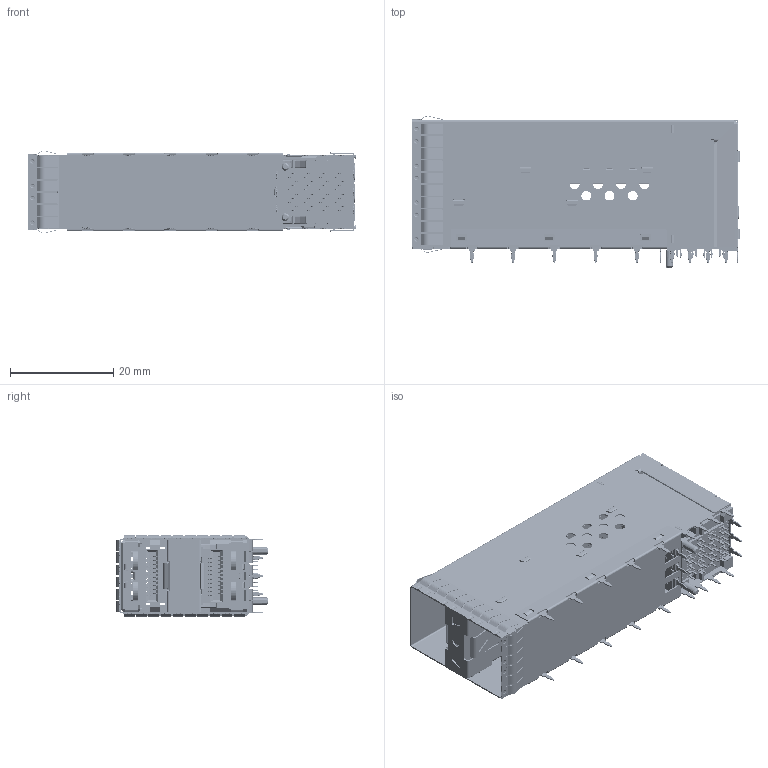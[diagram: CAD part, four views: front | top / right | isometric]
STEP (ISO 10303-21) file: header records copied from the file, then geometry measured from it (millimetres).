
FILE_DESCRIPTION (( 'STEP AP214' ), '1' );
FILE_NAME ('SBA0-0000310400-0000-X.STEP', '2021-07-14T01:15:39', ( '' ), ( '' ), 'SwSTEP 2.0', 'SolidWorks 2012', '' );
FILE_SCHEMA (( 'AUTOMOTIVE_DESIGN' ));
Length unit declared in the file: millimetre
Products named in the file (10): SBA0 Conn+Lightpipe Ass''y-1_w\outer 2Lightpipe; SS20-S150_1x1-Top Spring Ass''y; SSA0-S120_SFP28-Ground pin; SBA0-0000310400-0000-X; SSA0-S110-1_2.25-Legs21-SFP28 hole ass''y; SBA0-M110; SBD0-P130_for 4Lightpipe; SSD0-P150; SBD0-S140_w\UD Outerlightpipe散熱圓孔-ass''y; SS20-S150_2*N Side Spring Ass''y
Assembly tree (11 placements, depth 3):
  SBA0-0000310400-0000-X
    SSA0-S110-1_2.25-Legs21-SFP28 hole ass''y
    SSA0-S120_SFP28-Ground pin
    SS20-S150_2*N Side Spring Ass''y  x2
    SS20-S150_1x1-Top Spring Ass''y  x2
    SBD0-S140_w\UD Outerlightpipe散熱圓孔-ass''y
    SBA0 Conn+Lightpipe Ass''y-1_w\outer 2Lightpipe
      SBA0-M110
      SBD0-P130_for 4Lightpipe
      SSD0-P150
Bounding box: 63.5 x 29.5 x 16 mm (x, y, z)
Volume: 4740.7 mm3; surface area: 24595.3 mm2
Topology: 192 solids, 192 shells, 9757 faces, 26041 edges, 16603 vertices
Faces by surface type: plane 5675, cylinder 2650, bspline 922, torus 398, sphere 88, cone 24
Entity records: 367301 total; most frequent: CARTESIAN_POINT 73489, ORIENTED_EDGE 49026, DIRECTION 47311, EDGE_CURVE 24513, VECTOR 15833, LINE 15833, AXIS2_PLACEMENT_3D 15739, VERTEX_POINT 15677
